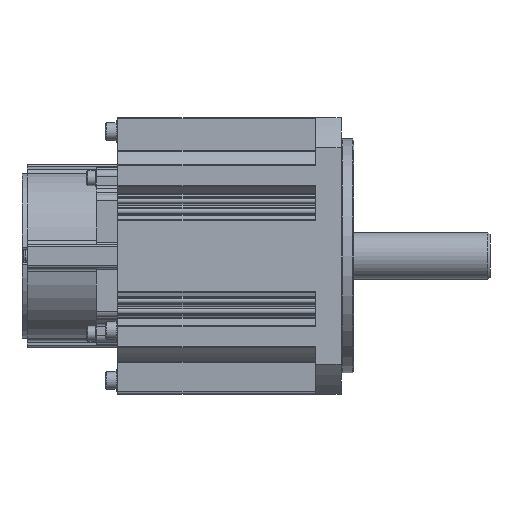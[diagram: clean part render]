
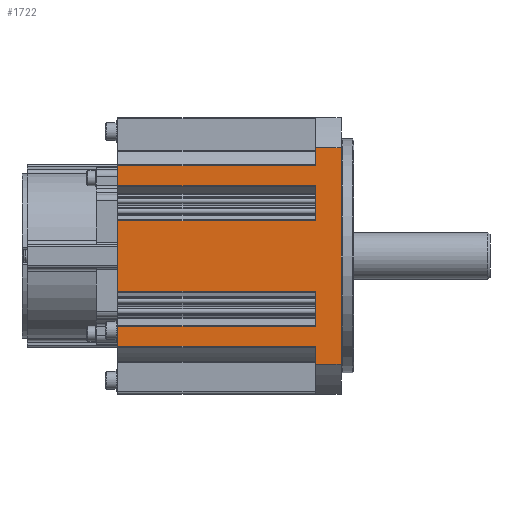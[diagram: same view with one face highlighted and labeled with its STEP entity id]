
A CAD part, front view. The second image highlights one B-rep face of the part: STEP entity #1722.
In plain terms, the highlighted planar face has unit normal (0, -1, 0).
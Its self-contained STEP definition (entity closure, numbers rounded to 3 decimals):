
#1722 = ADVANCED_FACE( '', ( #3585 ), #3586, .T. );
#3585 = FACE_OUTER_BOUND( '', #5459, .T. );
#3586 = PLANE( '', #5460 );
#5459 = EDGE_LOOP( '', ( #10482, #10483, #10484, #10485, #10486, #10487, #10488, #10489, #10490, #10491, #10492, #10493, #10494, #10495, #10496, #10497, #10498, #10499, #10500, #10501 ) );
#5460 = AXIS2_PLACEMENT_3D( '', #10502, #10503, #10504 );
#10482 = ORIENTED_EDGE( '', *, *, #12636, .F. );
#10483 = ORIENTED_EDGE( '', *, *, #12241, .T. );
#10484 = ORIENTED_EDGE( '', *, *, #11959, .F. );
#10485 = ORIENTED_EDGE( '', *, *, #12591, .F. );
#10486 = ORIENTED_EDGE( '', *, *, #11160, .F. );
#10487 = ORIENTED_EDGE( '', *, *, #11716, .T. );
#10488 = ORIENTED_EDGE( '', *, *, #11629, .T. );
#10489 = ORIENTED_EDGE( '', *, *, #12680, .F. );
#10490 = ORIENTED_EDGE( '', *, *, #12518, .F. );
#10491 = ORIENTED_EDGE( '', *, *, #12664, .F. );
#10492 = ORIENTED_EDGE( '', *, *, #11003, .F. );
#10493 = ORIENTED_EDGE( '', *, *, #11651, .T. );
#10494 = ORIENTED_EDGE( '', *, *, #11614, .T. );
#10495 = ORIENTED_EDGE( '', *, *, #12244, .F. );
#10496 = ORIENTED_EDGE( '', *, *, #11322, .F. );
#10497 = ORIENTED_EDGE( '', *, *, #12425, .F. );
#10498 = ORIENTED_EDGE( '', *, *, #11395, .F. );
#10499 = ORIENTED_EDGE( '', *, *, #12407, .T. );
#10500 = ORIENTED_EDGE( '', *, *, #11598, .T. );
#10501 = ORIENTED_EDGE( '', *, *, #11047, .F. );
#10502 = CARTESIAN_POINT( '', ( -105., -65., 50.806 ) );
#10503 = DIRECTION( '', ( 0., -1., 0. ) );
#10504 = DIRECTION( '', ( 0., 0., -1. ) );
#11003 = EDGE_CURVE( '', #13248, #13249, #13250, .T. );
#11047 = EDGE_CURVE( '', #13323, #13318, #13325, .T. );
#11160 = EDGE_CURVE( '', #13518, #13520, #13521, .T. );
#11322 = EDGE_CURVE( '', #13303, #13795, #13796, .T. );
#11395 = EDGE_CURVE( '', #13914, #13915, #13916, .T. );
#11598 = EDGE_CURVE( '', #14254, #13318, #14255, .T. );
#11614 = EDGE_CURVE( '', #14283, #14281, #14284, .T. );
#11629 = EDGE_CURVE( '', #14309, #14307, #14310, .T. );
#11651 = EDGE_CURVE( '', #13248, #14283, #14343, .T. );
#11716 = EDGE_CURVE( '', #13518, #14309, #14439, .T. );
#11959 = EDGE_CURVE( '', #14789, #14791, #14792, .T. );
#12241 = EDGE_CURVE( '', #15159, #14791, #15161, .T. );
#12244 = EDGE_CURVE( '', #13795, #14281, #15164, .T. );
#12407 = EDGE_CURVE( '', #13914, #14254, #15356, .T. );
#12425 = EDGE_CURVE( '', #13915, #13303, #15376, .T. );
#12518 = EDGE_CURVE( '', #15057, #15490, #15491, .T. );
#12591 = EDGE_CURVE( '', #13520, #14789, #15573, .T. );
#12636 = EDGE_CURVE( '', #15159, #13323, #15616, .T. );
#12664 = EDGE_CURVE( '', #13249, #15057, #15645, .T. );
#12680 = EDGE_CURVE( '', #15490, #14307, #15661, .T. );
#13248 = VERTEX_POINT( '', #16461 );
#13249 = VERTEX_POINT( '', #16462 );
#13250 = LINE( '', #16463, #16464 );
#13303 = VERTEX_POINT( '', #16534 );
#13318 = VERTEX_POINT( '', #16554 );
#13323 = VERTEX_POINT( '', #16560 );
#13325 = LINE( '', #16562, #16563 );
#13518 = VERTEX_POINT( '', #16846 );
#13520 = VERTEX_POINT( '', #16848 );
#13521 = LINE( '', #16849, #16850 );
#13795 = VERTEX_POINT( '', #17215 );
#13796 = LINE( '', #17216, #17217 );
#13914 = VERTEX_POINT( '', #17387 );
#13915 = VERTEX_POINT( '', #17388 );
#13916 = LINE( '', #17389, #17390 );
#14254 = VERTEX_POINT( '', #17880 );
#14255 = LINE( '', #17881, #17882 );
#14281 = VERTEX_POINT( '', #17913 );
#14283 = VERTEX_POINT( '', #17915 );
#14284 = LINE( '', #17916, #17917 );
#14307 = VERTEX_POINT( '', #17944 );
#14309 = VERTEX_POINT( '', #17946 );
#14310 = LINE( '', #17947, #17948 );
#14343 = LINE( '', #17987, #17988 );
#14439 = LINE( '', #18118, #18119 );
#14789 = VERTEX_POINT( '', #18577 );
#14791 = VERTEX_POINT( '', #18579 );
#14792 = LINE( '', #18580, #18581 );
#15057 = VERTEX_POINT( '', #18935 );
#15159 = VERTEX_POINT( '', #19088 );
#15161 = LINE( '', #19090, #19091 );
#15164 = LINE( '', #19094, #19095 );
#15356 = LINE( '', #19398, #19399 );
#15376 = LINE( '', #19423, #19424 );
#15490 = VERTEX_POINT( '', #19566 );
#15491 = LINE( '', #19567, #19568 );
#15573 = LINE( '', #19667, #19668 );
#15616 = LINE( '', #19719, #19720 );
#15645 = LINE( '', #19755, #19756 );
#15661 = LINE( '', #19773, #19774 );
#16461 = CARTESIAN_POINT( '', ( -12., -65., 16.5 ) );
#16462 = CARTESIAN_POINT( '', ( -12., -65., 21. ) );
#16463 = CARTESIAN_POINT( '', ( -12., -65., 50.806 ) );
#16464 = VECTOR( '', #20205, 1000. );
#16534 = CARTESIAN_POINT( '', ( -12., -65., -21. ) );
#16554 = CARTESIAN_POINT( '', ( -105., -65., -42.5 ) );
#16560 = CARTESIAN_POINT( '', ( -12., -65., -42.5 ) );
#16562 = CARTESIAN_POINT( '', ( -12., -65., -42.5 ) );
#16563 = VECTOR( '', #20265, 1000. );
#16846 = CARTESIAN_POINT( '', ( -12., -65., 42.5 ) );
#16848 = CARTESIAN_POINT( '', ( -12., -65., 50.806 ) );
#16849 = CARTESIAN_POINT( '', ( -12., -65., 50.806 ) );
#16850 = VECTOR( '', #20415, 1000. );
#17215 = CARTESIAN_POINT( '', ( -12., -65., -16.5 ) );
#17216 = CARTESIAN_POINT( '', ( -12., -65., 50.806 ) );
#17217 = VECTOR( '', #20644, 1000. );
#17387 = CARTESIAN_POINT( '', ( -12., -65., -33.089 ) );
#17388 = CARTESIAN_POINT( '', ( -12., -65., -26. ) );
#17389 = CARTESIAN_POINT( '', ( -12., -65., 50.806 ) );
#17390 = VECTOR( '', #20729, 1000. );
#17880 = CARTESIAN_POINT( '', ( -105., -65., -33.089 ) );
#17881 = CARTESIAN_POINT( '', ( -105., -65., 50.806 ) );
#17882 = VECTOR( '', #21120, 1000. );
#17913 = CARTESIAN_POINT( '', ( -105., -65., -16.5 ) );
#17915 = CARTESIAN_POINT( '', ( -105., -65., 16.5 ) );
#17916 = CARTESIAN_POINT( '', ( -105., -65., 50.806 ) );
#17917 = VECTOR( '', #21156, 1000. );
#17944 = CARTESIAN_POINT( '', ( -105., -65., 33.089 ) );
#17946 = CARTESIAN_POINT( '', ( -105., -65., 42.5 ) );
#17947 = CARTESIAN_POINT( '', ( -105., -65., 50.806 ) );
#17948 = VECTOR( '', #21191, 1000. );
#17987 = CARTESIAN_POINT( '', ( -12., -65., 16.5 ) );
#17988 = VECTOR( '', #21228, 1000. );
#18118 = CARTESIAN_POINT( '', ( -12., -65., 42.5 ) );
#18119 = VECTOR( '', #21299, 1000. );
#18577 = CARTESIAN_POINT( '', ( 0., -65., 50.806 ) );
#18579 = CARTESIAN_POINT( '', ( 0., -65., -50.806 ) );
#18580 = CARTESIAN_POINT( '', ( 0., -65., 50.806 ) );
#18581 = VECTOR( '', #21588, 1000. );
#18935 = CARTESIAN_POINT( '', ( -12., -65., 26. ) );
#19088 = CARTESIAN_POINT( '', ( -12., -65., -50.806 ) );
#19090 = CARTESIAN_POINT( '', ( -105., -65., -50.806 ) );
#19091 = VECTOR( '', #21922, 1000. );
#19094 = CARTESIAN_POINT( '', ( -12., -65., -16.5 ) );
#19095 = VECTOR( '', #21923, 1000. );
#19398 = CARTESIAN_POINT( '', ( -12., -65., -33.089 ) );
#19399 = VECTOR( '', #22059, 1000. );
#19423 = CARTESIAN_POINT( '', ( -12., -65., 50.806 ) );
#19424 = VECTOR( '', #22073, 1000. );
#19566 = CARTESIAN_POINT( '', ( -12., -65., 33.089 ) );
#19567 = CARTESIAN_POINT( '', ( -12., -65., 50.806 ) );
#19568 = VECTOR( '', #22174, 1000. );
#19667 = CARTESIAN_POINT( '', ( -105., -65., 50.806 ) );
#19668 = VECTOR( '', #22255, 1000. );
#19719 = CARTESIAN_POINT( '', ( -12., -65., 50.806 ) );
#19720 = VECTOR( '', #22273, 1000. );
#19755 = CARTESIAN_POINT( '', ( -12., -65., 50.806 ) );
#19756 = VECTOR( '', #22283, 1000. );
#19773 = CARTESIAN_POINT( '', ( -12., -65., 33.089 ) );
#19774 = VECTOR( '', #22288, 1000. );
#20205 = DIRECTION( '', ( 0., 0., 1. ) );
#20265 = DIRECTION( '', ( -1., 0., 0. ) );
#20415 = DIRECTION( '', ( 0., 0., 1. ) );
#20644 = DIRECTION( '', ( 0., 0., 1. ) );
#20729 = DIRECTION( '', ( 0., 0., 1. ) );
#21120 = DIRECTION( '', ( 0., 0., -1. ) );
#21156 = DIRECTION( '', ( 0., 0., -1. ) );
#21191 = DIRECTION( '', ( 0., 0., -1. ) );
#21228 = DIRECTION( '', ( -1., 0., 0. ) );
#21299 = DIRECTION( '', ( -1., 0., 0. ) );
#21588 = DIRECTION( '', ( 0., 0., -1. ) );
#21922 = DIRECTION( '', ( 1., 0., 0. ) );
#21923 = DIRECTION( '', ( -1., 0., 0. ) );
#22059 = DIRECTION( '', ( -1., 0., 0. ) );
#22073 = DIRECTION( '', ( 0., 0., 1. ) );
#22174 = DIRECTION( '', ( 0., 0., 1. ) );
#22255 = DIRECTION( '', ( 1., 0., 0. ) );
#22273 = DIRECTION( '', ( 0., 0., 1. ) );
#22283 = DIRECTION( '', ( 0., 0., 1. ) );
#22288 = DIRECTION( '', ( -1., 0., 0. ) );
